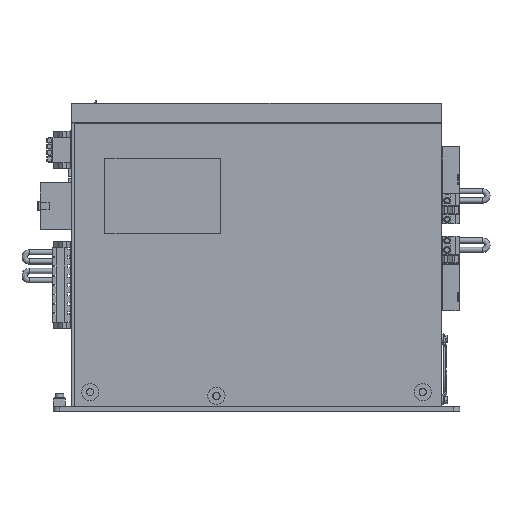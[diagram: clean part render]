
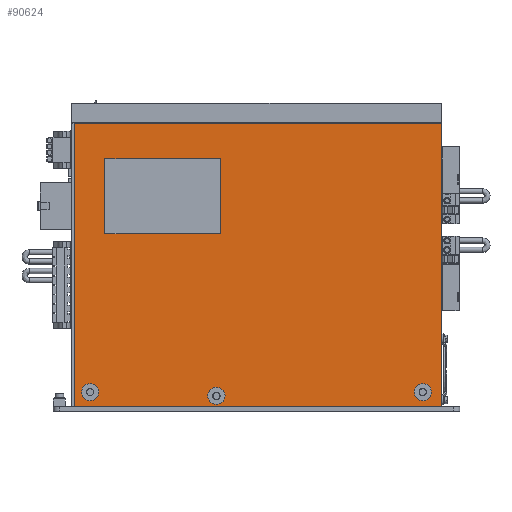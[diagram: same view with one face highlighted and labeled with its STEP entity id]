
A CAD part, left-side view. The second image highlights one B-rep face of the part: STEP entity #90624.
In plain terms, the highlighted planar face has unit normal (-1, 0, 0).
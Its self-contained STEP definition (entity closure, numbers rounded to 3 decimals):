
#902 = VERTEX_POINT ( 'NONE', #104286 ) ;
#1502 = DIRECTION ( 'NONE',  ( 0., -1., 0. ) ) ;
#4018 = VECTOR ( 'NONE', #110444, 1000. ) ;
#4599 = ORIENTED_EDGE ( 'NONE', *, *, #99409, .F. ) ;
#6433 = CARTESIAN_POINT ( 'NONE',  ( -10., -29.46, 15.5 ) ) ;
#6778 = ORIENTED_EDGE ( 'NONE', *, *, #52150, .F. ) ;
#7177 = LINE ( 'NONE', #100323, #4018 ) ;
#7534 = VERTEX_POINT ( 'NONE', #6433 ) ;
#7769 = DIRECTION ( 'NONE',  ( 0., 1., 0. ) ) ;
#8443 = CARTESIAN_POINT ( 'NONE',  ( -10., -128.5, 144. ) ) ;
#10079 = EDGE_CURVE ( 'NONE', #11902, #79193, #7177, .T. ) ;
#10158 = ORIENTED_EDGE ( 'NONE', *, *, #89216, .F. ) ;
#10274 = FACE_BOUND ( 'NONE', #92238, .T. ) ;
#11902 = VERTEX_POINT ( 'NONE', #46169 ) ;
#14754 = EDGE_LOOP ( 'NONE', ( #44763, #99461, #124739, #54444 ) ) ;
#16239 = VERTEX_POINT ( 'NONE', #112566 ) ;
#17546 = CARTESIAN_POINT ( 'NONE',  ( -10., -125., 12.5 ) ) ;
#17930 = CIRCLE ( 'NONE', #73001, 6.96 ) ;
#17996 = EDGE_CURVE ( 'NONE', #902, #110006, #129320, .T. ) ;
#18546 = DIRECTION ( 'NONE',  ( 0., -1., 0. ) ) ;
#19550 = DIRECTION ( 'NONE',  ( -1., 0., 0. ) ) ;
#19869 = EDGE_CURVE ( 'NONE', #16239, #46101, #115882, .T. ) ;
#20104 = CIRCLE ( 'NONE', #44663, 6.96 ) ;
#23892 = AXIS2_PLACEMENT_3D ( 'NONE', #90962, #30716, #101028 ) ;
#27665 = DIRECTION ( 'NONE',  ( 0., 1., 0. ) ) ;
#27824 = VECTOR ( 'NONE', #108178, 1000. ) ;
#28536 = CARTESIAN_POINT ( 'NONE',  ( -10., -118.04, 12.5 ) ) ;
#29579 = VECTOR ( 'NONE', #1502, 1000. ) ;
#30716 = DIRECTION ( 'NONE',  ( -1., 0., 0. ) ) ;
#30861 = CARTESIAN_POINT ( 'NONE',  ( -10., -307.5, 4.1 ) ) ;
#31549 = CARTESIAN_POINT ( 'NONE',  ( -10., -15.54, 15.5 ) ) ;
#31857 = CARTESIAN_POINT ( 'NONE',  ( -10., -299.46, 15.5 ) ) ;
#34143 = EDGE_LOOP ( 'NONE', ( #46702, #10158, #122173, #90368 ) ) ;
#35139 = CARTESIAN_POINT ( 'NONE',  ( -10., -9.5, 233.9 ) ) ;
#35318 = VECTOR ( 'NONE', #50451, 1000. ) ;
#38229 = DIRECTION ( 'NONE',  ( -1., 0., 0. ) ) ;
#39516 = DIRECTION ( 'NONE',  ( 0., 0., -1. ) ) ;
#40282 = CARTESIAN_POINT ( 'NONE',  ( -10., -9.5, 119. ) ) ;
#40840 = VERTEX_POINT ( 'NONE', #80716 ) ;
#41947 = DIRECTION ( 'NONE',  ( 0., 1., 0. ) ) ;
#44663 = AXIS2_PLACEMENT_3D ( 'NONE', #128175, #68058, #7769 ) ;
#44763 = ORIENTED_EDGE ( 'NONE', *, *, #54458, .T. ) ;
#45216 = VERTEX_POINT ( 'NONE', #74092 ) ;
#46087 = EDGE_CURVE ( 'NONE', #127156, #7534, #17930, .T. ) ;
#46101 = VERTEX_POINT ( 'NONE', #28536 ) ;
#46169 = CARTESIAN_POINT ( 'NONE',  ( -10., -34.5, 205. ) ) ;
#46702 = ORIENTED_EDGE ( 'NONE', *, *, #81706, .F. ) ;
#49219 = CARTESIAN_POINT ( 'NONE',  ( -10., -34.5, 144. ) ) ;
#50451 = DIRECTION ( 'NONE',  ( 0., 0., -1. ) ) ;
#50607 = AXIS2_PLACEMENT_3D ( 'NONE', #79793, #19550, #89891 ) ;
#51468 = LINE ( 'NONE', #77919, #27824 ) ;
#52150 = EDGE_CURVE ( 'NONE', #46101, #16239, #122831, .T. ) ;
#52596 = CARTESIAN_POINT ( 'NONE',  ( -10., -128.5, 205. ) ) ;
#54444 = ORIENTED_EDGE ( 'NONE', *, *, #102850, .T. ) ;
#54458 = EDGE_CURVE ( 'NONE', #40840, #69538, #109764, .T. ) ;
#59783 = CARTESIAN_POINT ( 'NONE',  ( -10., -307.5, 234. ) ) ;
#59878 = CARTESIAN_POINT ( 'NONE',  ( -10., -292.5, 15.5 ) ) ;
#60714 = FACE_BOUND ( 'NONE', #60789, .T. ) ;
#60789 = EDGE_LOOP ( 'NONE', ( #6778, #89876 ) ) ;
#61706 = AXIS2_PLACEMENT_3D ( 'NONE', #17546, #87892, #27665 ) ;
#62939 = ORIENTED_EDGE ( 'NONE', *, *, #117682, .F. ) ;
#63860 = FACE_BOUND ( 'NONE', #114573, .T. ) ;
#68058 = DIRECTION ( 'NONE',  ( -1., 0., 0. ) ) ;
#69538 = VERTEX_POINT ( 'NONE', #30861 ) ;
#69948 = DIRECTION ( 'NONE',  ( 0., 1., 0. ) ) ;
#70523 = PLANE ( 'NONE',  #76612 ) ;
#71407 = LINE ( 'NONE', #52596, #98078 ) ;
#73001 = AXIS2_PLACEMENT_3D ( 'NONE', #98385, #38229, #108518 ) ;
#74092 = CARTESIAN_POINT ( 'NONE',  ( -10., -128.5, 205. ) ) ;
#75908 = VECTOR ( 'NONE', #41947, 1000. ) ;
#76612 = AXIS2_PLACEMENT_3D ( 'NONE', #90257, #120548, #90701 ) ;
#77919 = CARTESIAN_POINT ( 'NONE',  ( -10., -128.5, 205. ) ) ;
#78538 = EDGE_CURVE ( 'NONE', #79193, #93979, #117876, .T. ) ;
#79193 = VERTEX_POINT ( 'NONE', #49219 ) ;
#79793 = CARTESIAN_POINT ( 'NONE',  ( -10., -292.5, 15.5 ) ) ;
#80716 = CARTESIAN_POINT ( 'NONE',  ( -10., -9.5, 4.1 ) ) ;
#81706 = EDGE_CURVE ( 'NONE', #45216, #11902, #71407, .T. ) ;
#83770 = CARTESIAN_POINT ( 'NONE',  ( -10., -285.54, 15.5 ) ) ;
#87376 = FACE_OUTER_BOUND ( 'NONE', #14754, .T. ) ;
#87892 = DIRECTION ( 'NONE',  ( -1., 0., 0. ) ) ;
#88010 = VECTOR ( 'NONE', #18546, 1000. ) ;
#88790 = LINE ( 'NONE', #40282, #35318 ) ;
#89216 = EDGE_CURVE ( 'NONE', #93979, #45216, #51468, .T. ) ;
#89876 = ORIENTED_EDGE ( 'NONE', *, *, #19869, .F. ) ;
#89891 = DIRECTION ( 'NONE',  ( 0., 1., 0. ) ) ;
#90198 = VECTOR ( 'NONE', #39516, 1000. ) ;
#90257 = CARTESIAN_POINT ( 'NONE',  ( -10., -9.5, 234. ) ) ;
#90368 = ORIENTED_EDGE ( 'NONE', *, *, #10079, .F. ) ;
#90624 = ADVANCED_FACE ( 'NONE', ( #10274, #60714, #63860, #87376, #114089 ), #70523, .F. ) ;
#90701 = DIRECTION ( 'NONE',  ( 0., -1., 0. ) ) ;
#90962 = CARTESIAN_POINT ( 'NONE',  ( -10., -125., 12.5 ) ) ;
#91076 = CIRCLE ( 'NONE', #50607, 6.96 ) ;
#92238 = EDGE_LOOP ( 'NONE', ( #120467, #62939 ) ) ;
#93343 = LINE ( 'NONE', #59783, #90198 ) ;
#93979 = VERTEX_POINT ( 'NONE', #110900 ) ;
#98078 = VECTOR ( 'NONE', #122828, 1000. ) ;
#98385 = CARTESIAN_POINT ( 'NONE',  ( -10., -22.5, 15.5 ) ) ;
#99409 = EDGE_CURVE ( 'NONE', #107283, #129774, #119627, .T. ) ;
#99461 = ORIENTED_EDGE ( 'NONE', *, *, #106565, .F. ) ;
#100323 = CARTESIAN_POINT ( 'NONE',  ( -10., -34.5, 205. ) ) ;
#101028 = DIRECTION ( 'NONE',  ( 0., 1., 0. ) ) ;
#101699 = CARTESIAN_POINT ( 'NONE',  ( -10., -9.5, 233.9 ) ) ;
#102850 = EDGE_CURVE ( 'NONE', #110006, #40840, #88790, .T. ) ;
#104286 = CARTESIAN_POINT ( 'NONE',  ( -10., -307.5, 233.9 ) ) ;
#106565 = EDGE_CURVE ( 'NONE', #902, #69538, #93343, .T. ) ;
#107283 = VERTEX_POINT ( 'NONE', #31857 ) ;
#108178 = DIRECTION ( 'NONE',  ( 0., 0., 1. ) ) ;
#108248 = ORIENTED_EDGE ( 'NONE', *, *, #127696, .F. ) ;
#108518 = DIRECTION ( 'NONE',  ( 0., 1., 0. ) ) ;
#109764 = LINE ( 'NONE', #111803, #29579 ) ;
#110006 = VERTEX_POINT ( 'NONE', #35139 ) ;
#110444 = DIRECTION ( 'NONE',  ( 0., 0., -1. ) ) ;
#110900 = CARTESIAN_POINT ( 'NONE',  ( -10., -128.5, 144. ) ) ;
#111212 = AXIS2_PLACEMENT_3D ( 'NONE', #59878, #130112, #69948 ) ;
#111803 = CARTESIAN_POINT ( 'NONE',  ( -10., -9.5, 4.1 ) ) ;
#112566 = CARTESIAN_POINT ( 'NONE',  ( -10., -131.96, 12.5 ) ) ;
#114089 = FACE_BOUND ( 'NONE', #34143, .T. ) ;
#114573 = EDGE_LOOP ( 'NONE', ( #108248, #4599 ) ) ;
#115882 = CIRCLE ( 'NONE', #61706, 6.96 ) ;
#117682 = EDGE_CURVE ( 'NONE', #7534, #127156, #20104, .T. ) ;
#117876 = LINE ( 'NONE', #8443, #88010 ) ;
#119627 = CIRCLE ( 'NONE', #111212, 6.96 ) ;
#120467 = ORIENTED_EDGE ( 'NONE', *, *, #46087, .F. ) ;
#120548 = DIRECTION ( 'NONE',  ( 1., 0., 0. ) ) ;
#122173 = ORIENTED_EDGE ( 'NONE', *, *, #78538, .F. ) ;
#122828 = DIRECTION ( 'NONE',  ( 0., 1., 0. ) ) ;
#122831 = CIRCLE ( 'NONE', #23892, 6.96 ) ;
#124739 = ORIENTED_EDGE ( 'NONE', *, *, #17996, .T. ) ;
#127156 = VERTEX_POINT ( 'NONE', #31549 ) ;
#127696 = EDGE_CURVE ( 'NONE', #129774, #107283, #91076, .T. ) ;
#128175 = CARTESIAN_POINT ( 'NONE',  ( -10., -22.5, 15.5 ) ) ;
#129320 = LINE ( 'NONE', #101699, #75908 ) ;
#129774 = VERTEX_POINT ( 'NONE', #83770 ) ;
#130112 = DIRECTION ( 'NONE',  ( -1., 0., 0. ) ) ;
